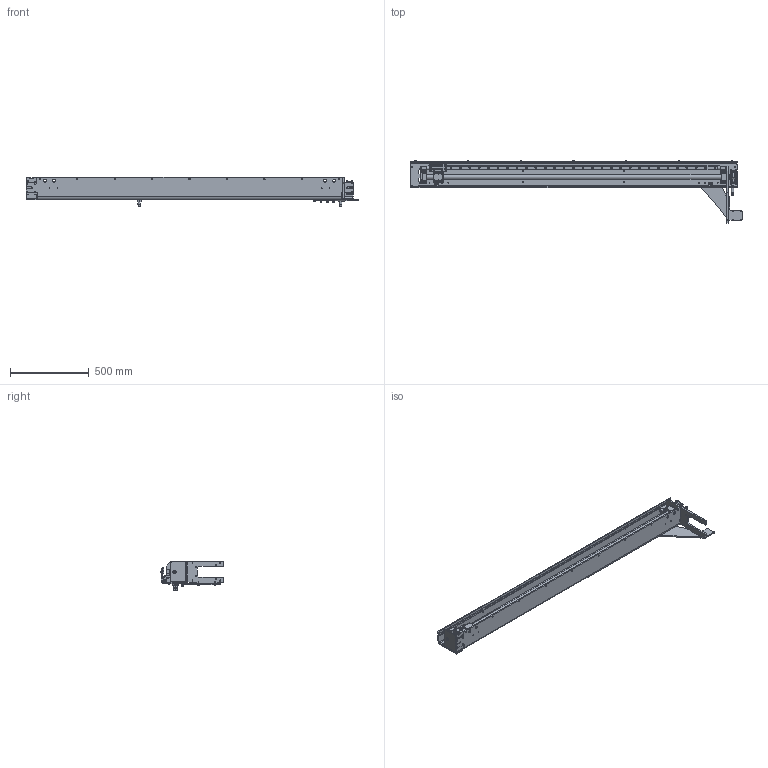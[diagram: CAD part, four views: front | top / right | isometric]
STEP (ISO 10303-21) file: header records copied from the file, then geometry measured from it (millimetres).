
FILE_DESCRIPTION(/* description */ ('BASE PROFILE'),/* implementation_level */ '2;1');
FILE_NAME(/* name */ 'C:\Users\jaccow\AppData\Local\Temp\Cadac\NetworkPub\step\FB983-950.stp',/* time_stamp */ '2018-10-24T16:37:02+02:00',/* author */ ('osr'),/* organization */ (''),/* preprocessor_version */ 'ST-DEVELOPER v16.1',/* originating_system */ 'Autodesk Inventor 2016',/* authorisation */ '');
FILE_SCHEMA (('AUTOMOTIVE_DESIGN { 1 0 10303 214 3 1 1 }'));
Products named in the file (49): FB992-101; FB1004-010; FB1007-021; PP0510-719; FB1068-098; CAA613-2511A; PP0512-719; PP0509-067; CCE1020-0441A; FB1000-690; PP0503-886; PP0505-885-1; PP0505-885-2; PP0505-885-3; PP0505-885-4; PP0505-885-5; PP0505-885; CBA515-0281E; FB1008-111; CCA621-0281A; CCE1006-1085C; PP0493-047; FB1045-127; FB1002-690; CCA817-0281A; FB1009-104; CBE819-0461B; CAE1080-1081A; FB1010-034; PP0508-155-1; PP0508-155-2; PP0508-155; PP0507-155-1; PP0507-155-2; PP0507-155; CAA1050-1082A; CCA519-0281A; FB995-101; FB998-101; CAA1060-1082A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
Assembly tree (158 placements, depth 4):
  FB983-950
    FB992-101
    FB1004-010
    FB1007-021
    PP0510-719
    FB1068-098
    CAA613-2511A
    PP0512-719
    PP0509-067  x2
    CCE1020-0441A
    FB1000-690  x2
    PP0503-886
    PP0505-885
      PP0505-885-1
      PP0505-885-2
      PP0505-885-3
      PP0505-885-4
      PP0505-885-5
    CBA515-0281E  x4
    FB1008-111  x2
    CCA621-0281A  x31
    CCE1006-1085C  x31
    PP0493-047  x7
    FB1045-127  x7
    FB1002-690  x2
    CCA817-0281A  x2
    FB1009-104
    CBE819-0461B
    CAE1080-1081A
    FB1010-034
    EPRM-PH-BASE-LEFT-EPRM6
      PP0508-155
        PP0508-155-1
        PP0508-155-2
      PP0507-155
        PP0507-155-1
        PP0507-155-2
      CAA1050-1082A  x4
      CCA519-0281A  x4
      FB995-101
      FB998-101
      CAA1060-1082A  x4
      CCA621-0281A  x4
      CCA1021-0285A  x2
      FB1011-061  x2
      FB1059-298
      CBA515-0281E  x4
    EPRM-PH-BB-MM2
      CCA844-0281A  x6
      CCA831-0281A  x2
    CCE1008-1085C  x6
Bounding box: 2111 x 396.3 x 187.5 mm (x, y, z)
Volume: 10179824.1 mm3; surface area: 2671960.5 mm2
Topology: 153 solids, 154 shells, 3585 faces, 8813 edges, 5773 vertices
Faces by surface type: plane 2254, cylinder 785, cone 264, bspline 188, torus 94
Full cylindrical faces by diameter (mm): 3.242 x4, 3.5 x4, 4 x2, 4.134 x20, 4.917 x58, 5 x12, 5.3 x4, 5.5 x4, 5.7 x2, 6 x50, 6.4 x4, 6.5 x11, 6.6 x20, 6.647 x18, 7 x35, 7.188 x1, 7.3 x2, 7.323 x1, 8 x24, 8.376 x14, 8.4 x1, 8.5 x8, 9 x18, 9.5 x14, 10 x37, 11 x35, 11.4 x1, 13 x12, 13.2 x4, 13.6 x7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
Entity records: 69603 total; most frequent: CARTESIAN_POINT 16318, ORIENTED_EDGE 10140, DIRECTION 10032, EDGE_CURVE 5070, VERTEX_POINT 3589, AXIS2_PLACEMENT_3D 3418, LINE 3196, VECTOR 3196
